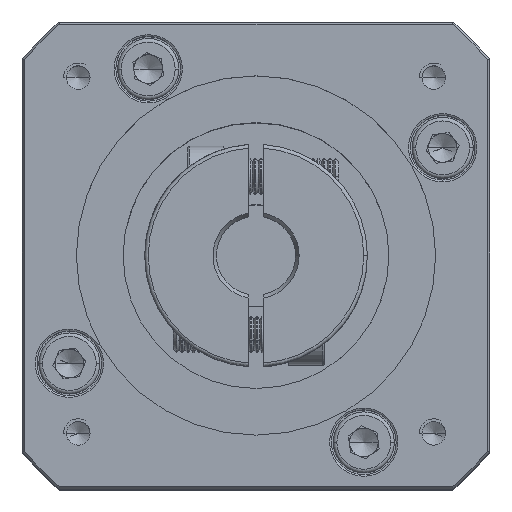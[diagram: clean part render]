
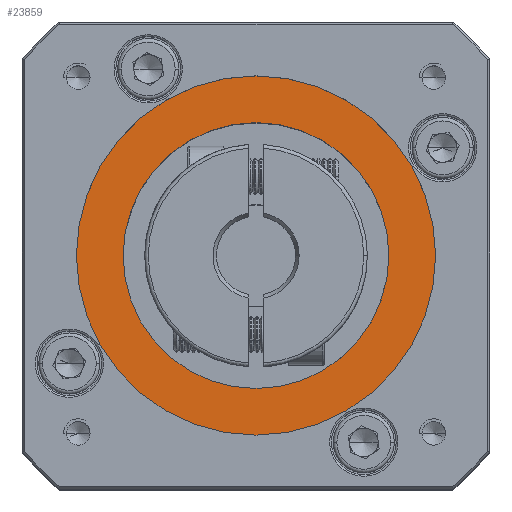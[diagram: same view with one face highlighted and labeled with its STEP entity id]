
A CAD part, top view. The second image highlights one B-rep face of the part: STEP entity #23859.
In plain terms, the highlighted planar face has unit normal (0, 0, 1).
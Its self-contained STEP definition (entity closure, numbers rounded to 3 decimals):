
#169 = CARTESIAN_POINT ( 'NONE',  ( -24.543, 43.056, -2.01 ) ) ;
#5573 = CIRCLE ( 'NONE', #13444, 18.5 ) ;
#8114 = DIRECTION ( 'NONE',  ( 1., 0., 0. ) ) ;
#8877 = DIRECTION ( 'NONE',  ( 0., 0., 1. ) ) ;
#10391 = DIRECTION ( 'NONE',  ( 1., 0., 0. ) ) ;
#13444 = AXIS2_PLACEMENT_3D ( 'NONE', #16088, #56094, #8114 ) ;
#16088 = CARTESIAN_POINT ( 'NONE',  ( -24.543, 43.056, -2.01 ) ) ;
#21604 = DIRECTION ( 'NONE',  ( 1., 0., 0. ) ) ;
#22445 = CARTESIAN_POINT ( 'NONE',  ( 0.457, 43.056, -2.01 ) ) ;
#22820 = DIRECTION ( 'NONE',  ( 0., 0., 1. ) ) ;
#23504 = ORIENTED_EDGE ( 'NONE', *, *, #45275, .T. ) ;
#23859 = ADVANCED_FACE ( 'NONE', ( #99013, #79653 ), #55038, .T. ) ;
#28288 = VERTEX_POINT ( 'NONE', #22445 ) ;
#30325 = EDGE_LOOP ( 'NONE', ( #33810, #91296 ) ) ;
#32208 = AXIS2_PLACEMENT_3D ( 'NONE', #41226, #22820, #21604 ) ;
#33810 = ORIENTED_EDGE ( 'NONE', *, *, #35570, .T. ) ;
#35441 = DIRECTION ( 'NONE',  ( 0., 0., 1. ) ) ;
#35570 = EDGE_CURVE ( 'NONE', #28288, #70444, #48271, .T. ) ;
#41226 = CARTESIAN_POINT ( 'NONE',  ( -24.543, 43.056, -2.01 ) ) ;
#45275 = EDGE_CURVE ( 'NONE', #46158, #46313, #101109, .T. ) ;
#46158 = VERTEX_POINT ( 'NONE', #79824 ) ;
#46313 = VERTEX_POINT ( 'NONE', #118125 ) ;
#47515 = CIRCLE ( 'NONE', #32208, 25. ) ;
#48271 = CIRCLE ( 'NONE', #110759, 25. ) ;
#50003 = ORIENTED_EDGE ( 'NONE', *, *, #67798, .T. ) ;
#52646 = CARTESIAN_POINT ( 'NONE',  ( -49.543, 43.056, -2.01 ) ) ;
#55038 = PLANE ( 'NONE',  #103080 ) ;
#56094 = DIRECTION ( 'NONE',  ( 0., 0., -1. ) ) ;
#67798 = EDGE_CURVE ( 'NONE', #46313, #46158, #5573, .T. ) ;
#70444 = VERTEX_POINT ( 'NONE', #52646 ) ;
#75947 = DIRECTION ( 'NONE',  ( 1., 0., 0. ) ) ;
#75989 = DIRECTION ( 'NONE',  ( 1., 0., 0. ) ) ;
#79653 = FACE_BOUND ( 'NONE', #109630, .T. ) ;
#79824 = CARTESIAN_POINT ( 'NONE',  ( -43.043, 43.056, -2.01 ) ) ;
#82913 = EDGE_CURVE ( 'NONE', #70444, #28288, #47515, .T. ) ;
#85182 = AXIS2_PLACEMENT_3D ( 'NONE', #94660, #104286, #75947 ) ;
#91296 = ORIENTED_EDGE ( 'NONE', *, *, #82913, .T. ) ;
#94660 = CARTESIAN_POINT ( 'NONE',  ( -24.543, 43.056, -2.01 ) ) ;
#99013 = FACE_OUTER_BOUND ( 'NONE', #30325, .T. ) ;
#101109 = CIRCLE ( 'NONE', #85182, 18.5 ) ;
#103080 = AXIS2_PLACEMENT_3D ( 'NONE', #103748, #35441, #10391 ) ;
#103748 = CARTESIAN_POINT ( 'NONE',  ( -24.543, 43.056, -2.01 ) ) ;
#104286 = DIRECTION ( 'NONE',  ( 0., 0., -1. ) ) ;
#109630 = EDGE_LOOP ( 'NONE', ( #50003, #23504 ) ) ;
#110759 = AXIS2_PLACEMENT_3D ( 'NONE', #169, #8877, #75989 ) ;
#118125 = CARTESIAN_POINT ( 'NONE',  ( -6.043, 43.056, -2.01 ) ) ;
